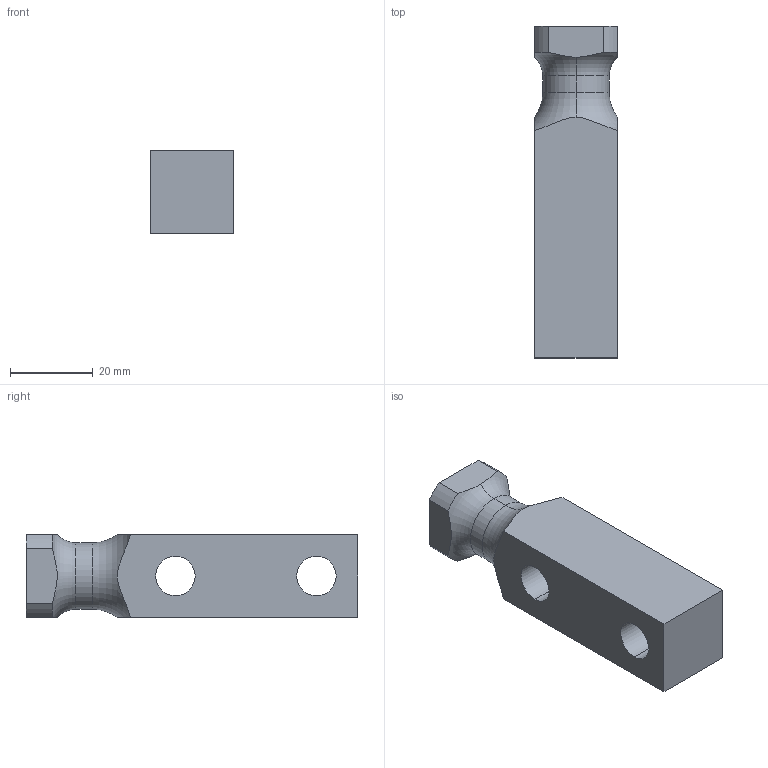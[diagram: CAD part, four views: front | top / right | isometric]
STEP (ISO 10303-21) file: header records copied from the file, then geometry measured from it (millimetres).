
FILE_DESCRIPTION(('CATIA V5 STEP Exchange'),'2;1');
FILE_NAME('C:\Users\Utente\Desktop\3D files 395V\395V-04-020-080.stp','2020-04-10T11:25:29+00:00',('none'),('none'),'CATIA Version 5 Release 20 GA (IN-10)','CATIA V5 STEP AP203','none');
FILE_SCHEMA(('CONFIG_CONTROL_DESIGN'));
Length unit declared in the file: millimetre
Products named in the file (1): _395V-04-020-080
Bounding box: 20 x 80 x 20 mm (x, y, z)
Volume: 24648.2 mm3; surface area: 8022.5 mm2
Topology: 1 solids, 1 shells, 30 faces, 94 edges, 68 vertices
Faces by surface type: cylinder 14, plane 12, torus 4
Entity records: 1417 total; most frequent: CARTESIAN_POINT 554, ORIENTED_EDGE 188, DIRECTION 134, EDGE_CURVE 94, AXIS2_PLACEMENT_3D 75, VERTEX_POINT 68, CIRCLE 44, EDGE_LOOP 36
